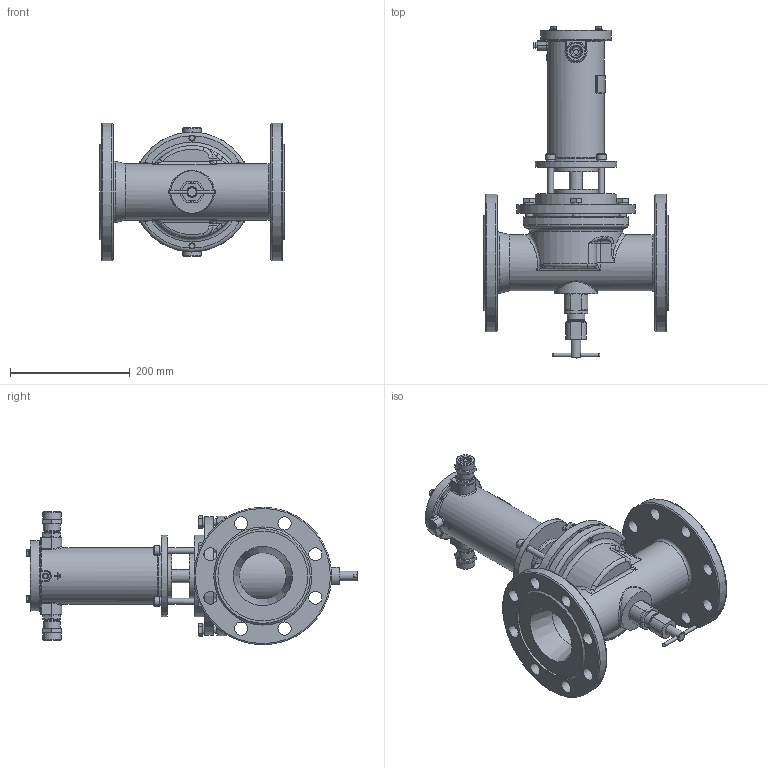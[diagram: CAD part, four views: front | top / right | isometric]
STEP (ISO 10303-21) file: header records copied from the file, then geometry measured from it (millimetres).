
FILE_DESCRIPTION(('STEP AP203'), '1');
FILE_NAME('ÑÅÍÑ-ÏÐ DN100PN25-200Ñ.stp', '2018-10-09T07:58:40', ('Îðëîâ Å.Â.'), ('ÎÎÎ ÍÏÏ Ñåíñîð'), 'ASCON STEP Converter 1.3', 'Kompas 3D', '');
FILE_SCHEMA(('CONFIG_CONTROL_DESIGN','SUPPORT_RESOURCE_SCHEMA'));
Length unit declared in the file: millimetre
Products named in the file (1): 24
Bounding box: 308 x 554.7 x 230 mm (x, y, z)
Volume: 3879636 mm3; surface area: 844135.5 mm2
Topology: 3 solids, 24 shells, 2149 faces, 5666 edges, 3658 vertices
Faces by surface type: cylinder 1048, plane 815, cone 157, bspline 56, torus 49, extrusion 16, sphere 8
Full cylindrical faces by diameter (mm): 3.5 x2, 4.134 x1, 4.917 x4, 5 x1, 6 x9, 6.5 x4, 8 x8, 8.2 x1, 8.376 x4, 9 x1, 10 x5, 10.106 x6, 11 x5, 12 x10, 13 x8, 16 x6, 17 x2, 18 x1, 18.632 x2, 20 x3, 22 x19, 22.376 x2, 23 x1, 23.5 x2, 24 x2, 24.5 x2, 26 x4, 26.376 x2, 27.8 x1, 28 x3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
Entity records: 84890 total; most frequent: CARTESIAN_POINT 30738, DIRECTION 11669, ORIENTED_EDGE 11270, EDGE_CURVE 5635, AXIS2_PLACEMENT_3D 4503, VERTEX_POINT 3658, VECTOR 2663, LINE 2647
